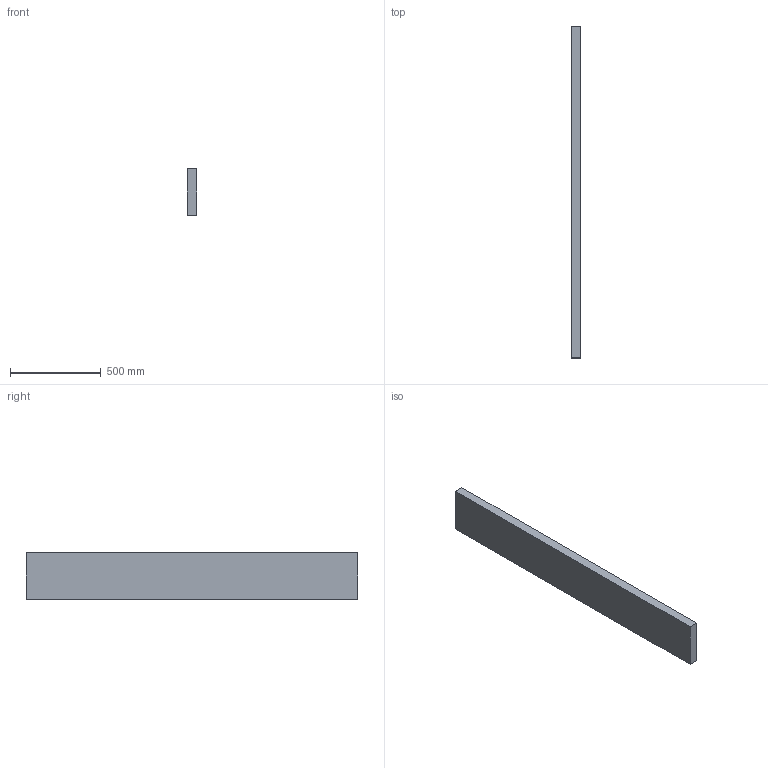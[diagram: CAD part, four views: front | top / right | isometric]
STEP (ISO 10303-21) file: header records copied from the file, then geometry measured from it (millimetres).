
FILE_DESCRIPTION(/* description */ (''),/* implementation_level */ '2;1');
FILE_NAME(/* name */ 'SM_Baffle2x10x72',/* time_stamp */ '2024-10-15T11:57:03-05:00',/* author */ (''),/* organization */ (''),/* preprocessor_version */ 'ST-DEVELOPER v19.2',/* originating_system */ 'Rhino 8.4',/* authorisation */ '');
FILE_SCHEMA (('CONFIG_CONTROL_DESIGN'));
Length unit declared in the file: inch
Products named in the file (1): Document
Bounding box: 50.8 x 1828.8 x 254 mm (x, y, z)
Volume: 23597372.2 mm3; surface area: 1140642.9 mm2
Topology: 1 solids, 1 shells, 6 faces, 12 edges, 8 vertices
Faces by surface type: plane 6
Entity records: 226 total; most frequent: CARTESIAN_POINT 40, ORIENTED_EDGE 24, EDGE_CURVE 12, B_SPLINE_CURVE_WITH_KNOTS 12, DIRECTION 10, VERTEX_POINT 8, AXIS2_PLACEMENT_3D 8, ORGANIZATION 7
